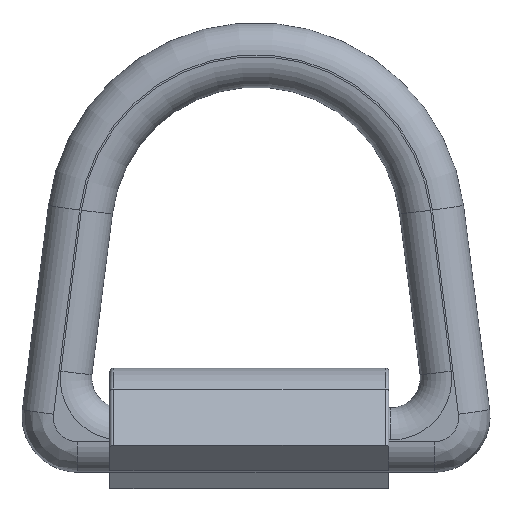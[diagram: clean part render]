
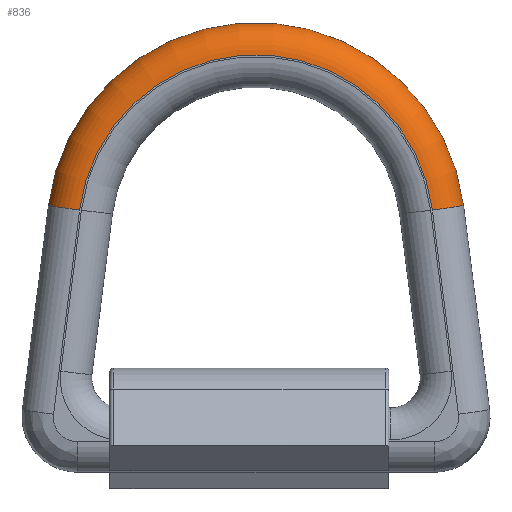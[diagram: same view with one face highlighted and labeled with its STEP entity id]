
A CAD part, front view. The second image highlights one B-rep face of the part: STEP entity #836.
In plain terms, the highlighted toroidal (fillet/blend) face has major radius 51 mm and minor radius 9 mm.
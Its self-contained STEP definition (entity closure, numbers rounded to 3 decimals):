
#216=FACE_OUTER_BOUND('',#272,.T.);
#272=EDGE_LOOP('',(#667,#668,#669,#670));
#319=CIRCLE('',#915,51.);
#339=CIRCLE('',#946,9.);
#340=CIRCLE('',#948,9.);
#341=CIRCLE('',#949,60.);
#385=VERTEX_POINT('',#1358);
#386=VERTEX_POINT('',#1360);
#405=VERTEX_POINT('',#1452);
#406=VERTEX_POINT('',#1456);
#466=EDGE_CURVE('',#386,#385,#319,.T.);
#498=EDGE_CURVE('',#405,#385,#339,.T.);
#500=EDGE_CURVE('',#406,#386,#340,.T.);
#501=EDGE_CURVE('',#405,#406,#341,.T.);
#667=ORIENTED_EDGE('',*,*,#500,.T.);
#668=ORIENTED_EDGE('',*,*,#466,.T.);
#669=ORIENTED_EDGE('',*,*,#498,.F.);
#670=ORIENTED_EDGE('',*,*,#501,.T.);
#809=TOROIDAL_SURFACE('',#947,51.,9.);
#836=ADVANCED_FACE('',(#216),#809,.T.);
#915=AXIS2_PLACEMENT_3D('',#1361,#1073,#1074);
#946=AXIS2_PLACEMENT_3D('',#1453,#1147,#1148);
#947=AXIS2_PLACEMENT_3D('',#1455,#1150,#1151);
#948=AXIS2_PLACEMENT_3D('',#1457,#1152,#1153);
#949=AXIS2_PLACEMENT_3D('',#1458,#1154,#1155);
#1073=DIRECTION('center_axis',(0.,0.,-1.));
#1074=DIRECTION('ref_axis',(0.,1.,0.));
#1147=DIRECTION('center_axis',(0.127,-0.992,0.));
#1148=DIRECTION('ref_axis',(0.992,0.127,0.));
#1150=DIRECTION('center_axis',(0.,0.,1.));
#1151=DIRECTION('ref_axis',(1.,0.,0.));
#1152=DIRECTION('center_axis',(0.127,0.992,0.));
#1153=DIRECTION('ref_axis',(-0.992,0.127,0.));
#1154=DIRECTION('center_axis',(0.,0.,1.));
#1155=DIRECTION('ref_axis',(0.,1.,0.));
#1358=CARTESIAN_POINT('',(50.589,75.463,18.5));
#1360=CARTESIAN_POINT('',(-50.589,75.463,18.5));
#1361=CARTESIAN_POINT('Origin',(0.,69.,18.5));
#1452=CARTESIAN_POINT('',(59.516,76.604,9.5));
#1453=CARTESIAN_POINT('Origin',(50.589,75.463,9.5));
#1455=CARTESIAN_POINT('Origin',(0.,69.,9.5));
#1456=CARTESIAN_POINT('',(-59.516,76.604,9.5));
#1457=CARTESIAN_POINT('Origin',(-50.589,75.463,9.5));
#1458=CARTESIAN_POINT('Origin',(0.,69.,9.5));
